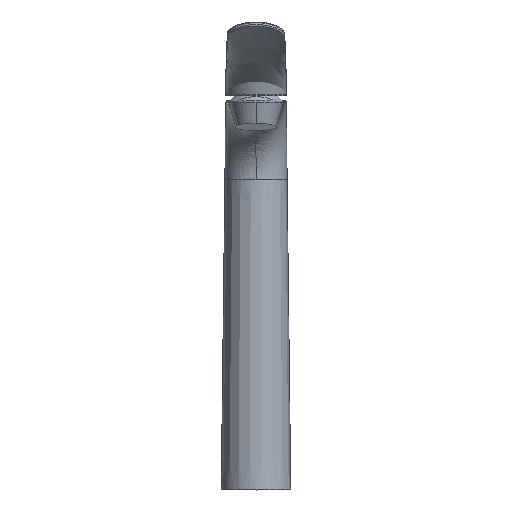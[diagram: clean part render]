
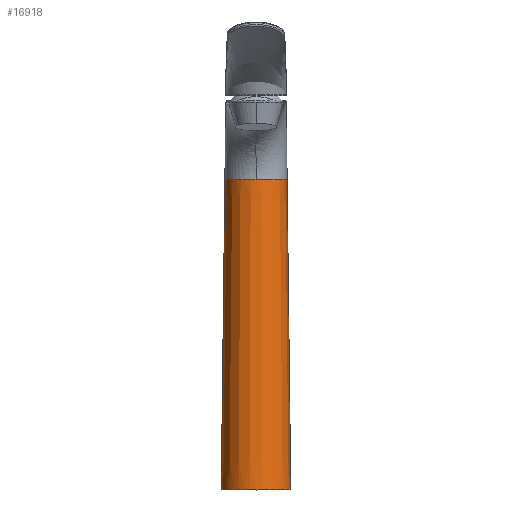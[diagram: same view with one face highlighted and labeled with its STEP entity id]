
A CAD part, top view. The second image highlights one B-rep face of the part: STEP entity #16918.
In plain terms, the highlighted conical face has half-angle 0.671 degrees and reference radius 22.999 mm.
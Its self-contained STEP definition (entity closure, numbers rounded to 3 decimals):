
#66 = B_SPLINE_CURVE_WITH_KNOTS ( 'NONE', 3,
 ( #7645, #13146, #8919, #13057, #6294, #11800, #11891, #17386, #16029, #2600, #13418, #16120, #2413, #17477, #975, #6476, #16307, #12163 ),
 .UNSPECIFIED., .F., .F.,
 ( 4, 2, 2, 2, 2, 2, 2, 2, 4 ),
 ( 0., 0.125, 0.25, 0.375, 0.5, 0.625, 0.75, 0.875, 1. ),
 .UNSPECIFIED. ) ;
#84 = CARTESIAN_POINT ( 'NONE',  ( 20.197, 239.232, 0.231 ) ) ;
#131 = CARTESIAN_POINT ( 'NONE',  ( -19.999, 256.199, 0.232 ) ) ;
#378 = CARTESIAN_POINT ( 'NONE',  ( -10.252, 205.296, 17.913 ) ) ;
#442 = VERTEX_POINT ( 'NONE', #131 ) ;
#463 = CARTESIAN_POINT ( 'NONE',  ( -15.43, 205.296, 13.707 ) ) ;
#548 = DIRECTION ( 'NONE',  ( 0., -1., 0. ) ) ;
#696 = EDGE_CURVE ( 'NONE', #7061, #1376, #4210, .T. ) ;
#711 = ORIENTED_EDGE ( 'NONE', *, *, #11432, .T. ) ;
#975 = CARTESIAN_POINT ( 'NONE',  ( 5.302, 205.296, 19.947 ) ) ;
#1191 = VERTEX_POINT ( 'NONE', #11068 ) ;
#1376 = VERTEX_POINT ( 'NONE', #15026 ) ;
#1464 = CARTESIAN_POINT ( 'NONE',  ( -9.064, 205.296, 18.542 ) ) ;
#1470 = CARTESIAN_POINT ( 'NONE',  ( 19.999, 256.2, 0.228 ) ) ;
#1704 = ORIENTED_EDGE ( 'NONE', *, *, #8108, .T. ) ;
#1871 = ORIENTED_EDGE ( 'NONE', *, *, #696, .T. ) ;
#2216 = ORIENTED_EDGE ( 'NONE', *, *, #10196, .T. ) ;
#2305 = CARTESIAN_POINT ( 'NONE',  ( 20., 256.2, 0.076 ) ) ;
#2413 = CARTESIAN_POINT ( 'NONE',  ( 9.065, 205.296, 18.542 ) ) ;
#2477 = AXIS2_PLACEMENT_3D ( 'NONE', #2995, #548, #16964 ) ;
#2600 = CARTESIAN_POINT ( 'NONE',  ( 13.528, 205.296, 15.588 ) ) ;
#2992 = CARTESIAN_POINT ( 'NONE',  ( -16.29, 205.296, 12.673 ) ) ;
#2995 = CARTESIAN_POINT ( 'NONE',  ( 0., 0., 0. ) ) ;
#3167 = CARTESIAN_POINT ( 'NONE',  ( -13.527, 205.296, 15.588 ) ) ;
#3347 = CARTESIAN_POINT ( 'NONE',  ( 0., 0., 0. ) ) ;
#3682 = ORIENTED_EDGE ( 'NONE', *, *, #12636, .T. ) ;
#4073 = ORIENTED_EDGE ( 'NONE', *, *, #12200, .T. ) ;
#4210 = CIRCLE ( 'NONE', #14860, 22.999 ) ;
#4432 = CARTESIAN_POINT ( 'NONE',  ( -5.301, 205.296, 19.947 ) ) ;
#4605 = CARTESIAN_POINT ( 'NONE',  ( 0., 205.296, 20.604 ) ) ;
#4782 = B_SPLINE_CURVE_WITH_KNOTS ( 'NONE', 3,
 ( #10166, #2305, #6369, #14570 ),
 .UNSPECIFIED., .F., .F.,
 ( 4, 4 ),
 ( 0.993, 1. ),
 .UNSPECIFIED. ) ;
#5104 = CARTESIAN_POINT ( 'NONE',  ( -19.999, 256.199, 0.232 ) ) ;
#5428 = VERTEX_POINT ( 'NONE', #1470 ) ;
#5600 = LINE ( 'NONE', #16418, #8542 ) ;
#6294 = CARTESIAN_POINT ( 'NONE',  ( 19.482, 205.296, 6.814 ) ) ;
#6317 = LINE ( 'NONE', #13263, #8259 ) ;
#6369 = CARTESIAN_POINT ( 'NONE',  ( 20., 256.2, 0.152 ) ) ;
#6416 = DIRECTION ( 'NONE',  ( 0., 1., 0. ) ) ;
#6476 = CARTESIAN_POINT ( 'NONE',  ( 2.676, 205.296, 20.465 ) ) ;
#7050 = DIRECTION ( 'NONE',  ( 0.012, -1., 0. ) ) ;
#7060 = CARTESIAN_POINT ( 'NONE',  ( -20.433, 205.296, 2.913 ) ) ;
#7061 = VERTEX_POINT ( 'NONE', #12394 ) ;
#7542 = CARTESIAN_POINT ( 'NONE',  ( 19.999, 256.2, 0. ) ) ;
#7645 = CARTESIAN_POINT ( 'NONE',  ( 20.599, 205.296, 0.237 ) ) ;
#7877 = EDGE_CURVE ( 'NONE', #5428, #11448, #12334, .T. ) ;
#7992 = CARTESIAN_POINT ( 'NONE',  ( -20., 256.199, 0. ) ) ;
#8017 = B_SPLINE_CURVE_WITH_KNOTS ( 'NONE', 3,
 ( #5104, #14837, #16376, #7992 ),
 .UNSPECIFIED., .F., .F.,
 ( 4, 4 ),
 ( 0., 0.059 ),
 .UNSPECIFIED. ) ;
#8108 = EDGE_CURVE ( 'NONE', #1191, #442, #14488, .T. ) ;
#8259 = VECTOR ( 'NONE', #15959, 1000. ) ;
#8321 = CARTESIAN_POINT ( 'NONE',  ( -6.589, 205.296, 19.559 ) ) ;
#8542 = VECTOR ( 'NONE', #7050, 1000. ) ;
#8587 = CARTESIAN_POINT ( 'NONE',  ( -20.599, 205.296, 0.239 ) ) ;
#8866 = EDGE_LOOP ( 'NONE', ( #4073, #3682, #1871, #14082, #711, #9827, #2216, #17105, #1704 ) ) ;
#8919 = CARTESIAN_POINT ( 'NONE',  ( 20.433, 205.296, 2.911 ) ) ;
#9661 = CARTESIAN_POINT ( 'NONE',  ( -20., 256.199, 0. ) ) ;
#9763 = VERTEX_POINT ( 'NONE', #9661 ) ;
#9827 = ORIENTED_EDGE ( 'NONE', *, *, #7877, .T. ) ;
#9839 = CARTESIAN_POINT ( 'NONE',  ( 0., 205.296, 20.604 ) ) ;
#10028 = CARTESIAN_POINT ( 'NONE',  ( -1.338, 205.296, 20.596 ) ) ;
#10112 = CARTESIAN_POINT ( 'NONE',  ( -19.482, 205.296, 6.815 ) ) ;
#10166 = CARTESIAN_POINT ( 'NONE',  ( 19.999, 256.2, 0. ) ) ;
#10196 = EDGE_CURVE ( 'NONE', #11448, #12983, #66, .T. ) ;
#10909 = CARTESIAN_POINT ( 'NONE',  ( 19.999, 256.2, 0.228 ) ) ;
#11068 = CARTESIAN_POINT ( 'NONE',  ( -20.599, 205.296, 0.239 ) ) ;
#11210 = CARTESIAN_POINT ( 'NONE',  ( -17.793, 205.296, 10.459 ) ) ;
#11365 = VERTEX_POINT ( 'NONE', #7542 ) ;
#11427 = CONICAL_SURFACE ( 'NONE', #2477, 22.999, 0.012 ) ;
#11432 = EDGE_CURVE ( 'NONE', #11365, #5428, #4782, .T. ) ;
#11448 = VERTEX_POINT ( 'NONE', #15660 ) ;
#11800 = CARTESIAN_POINT ( 'NONE',  ( 18.437, 205.296, 9.277 ) ) ;
#11891 = CARTESIAN_POINT ( 'NONE',  ( 17.794, 205.296, 10.458 ) ) ;
#12135 = CARTESIAN_POINT ( 'NONE',  ( -20.197, 239.232, 0.234 ) ) ;
#12163 = CARTESIAN_POINT ( 'NONE',  ( 0., 205.296, 20.604 ) ) ;
#12200 = EDGE_CURVE ( 'NONE', #442, #9763, #8017, .T. ) ;
#12334 = B_SPLINE_CURVE_WITH_KNOTS ( 'NONE', 3,
 ( #10909, #84, #13606, #14770 ),
 .UNSPECIFIED., .F., .F.,
 ( 4, 4 ),
 ( 0., 1. ),
 .UNSPECIFIED. ) ;
#12394 = CARTESIAN_POINT ( 'NONE',  ( -22.999, 0., 0. ) ) ;
#12636 = EDGE_CURVE ( 'NONE', #9763, #7061, #6317, .T. ) ;
#12738 = CARTESIAN_POINT ( 'NONE',  ( -19.884, 205.296, 5.532 ) ) ;
#12759 = EDGE_CURVE ( 'NONE', #11365, #1376, #5600, .T. ) ;
#12822 = CARTESIAN_POINT ( 'NONE',  ( -18.436, 205.296, 9.279 ) ) ;
#12983 = VERTEX_POINT ( 'NONE', #9839 ) ;
#13057 = CARTESIAN_POINT ( 'NONE',  ( 19.884, 205.296, 5.531 ) ) ;
#13146 = CARTESIAN_POINT ( 'NONE',  ( 20.579, 205.296, 1.575 ) ) ;
#13263 = CARTESIAN_POINT ( 'NONE',  ( -22.999, 0., 0. ) ) ;
#13418 = CARTESIAN_POINT ( 'NONE',  ( 12.484, 205.296, 16.435 ) ) ;
#13606 = CARTESIAN_POINT ( 'NONE',  ( 20.396, 222.264, 0.234 ) ) ;
#14082 = ORIENTED_EDGE ( 'NONE', *, *, #12759, .F. ) ;
#14166 = CARTESIAN_POINT ( 'NONE',  ( -20.579, 205.296, 1.577 ) ) ;
#14252 = FACE_OUTER_BOUND ( 'NONE', #8866, .T. ) ;
#14488 = B_SPLINE_CURVE_WITH_KNOTS ( 'NONE', 3,
 ( #16280, #17720, #12135, #16461 ),
 .UNSPECIFIED., .F., .F.,
 ( 4, 4 ),
 ( 0., 1. ),
 .UNSPECIFIED. ) ;
#14570 = CARTESIAN_POINT ( 'NONE',  ( 19.999, 256.2, 0.228 ) ) ;
#14770 = CARTESIAN_POINT ( 'NONE',  ( 20.599, 205.296, 0.237 ) ) ;
#14837 = CARTESIAN_POINT ( 'NONE',  ( -20., 256.199, 0.155 ) ) ;
#14860 = AXIS2_PLACEMENT_3D ( 'NONE', #3347, #6416, #17416 ) ;
#15026 = CARTESIAN_POINT ( 'NONE',  ( 22.999, 0., 0. ) ) ;
#15519 = CARTESIAN_POINT ( 'NONE',  ( -12.484, 205.296, 16.436 ) ) ;
#15614 = B_SPLINE_CURVE_WITH_KNOTS ( 'NONE', 3,
 ( #4605, #10028, #16789, #4432, #8321, #1464, #378, #15519, #3167, #463, #2992, #11210, #12822, #10112, #12738, #7060, #14166, #8587 ),
 .UNSPECIFIED., .F., .F.,
 ( 4, 2, 2, 2, 2, 2, 2, 2, 4 ),
 ( 0., 0.125, 0.25, 0.375, 0.5, 0.625, 0.75, 0.875, 1. ),
 .UNSPECIFIED. ) ;
#15660 = CARTESIAN_POINT ( 'NONE',  ( 20.599, 205.296, 0.237 ) ) ;
#15705 = EDGE_CURVE ( 'NONE', #12983, #1191, #15614, .T. ) ;
#15959 = DIRECTION ( 'NONE',  ( -0.012, -1., 0. ) ) ;
#16029 = CARTESIAN_POINT ( 'NONE',  ( 15.431, 205.296, 13.706 ) ) ;
#16120 = CARTESIAN_POINT ( 'NONE',  ( 10.253, 205.296, 17.913 ) ) ;
#16280 = CARTESIAN_POINT ( 'NONE',  ( -20.599, 205.296, 0.239 ) ) ;
#16307 = CARTESIAN_POINT ( 'NONE',  ( 1.338, 205.296, 20.596 ) ) ;
#16376 = CARTESIAN_POINT ( 'NONE',  ( -20., 256.199, 0.077 ) ) ;
#16418 = CARTESIAN_POINT ( 'NONE',  ( 22.999, 0., 0. ) ) ;
#16461 = CARTESIAN_POINT ( 'NONE',  ( -19.999, 256.199, 0.232 ) ) ;
#16789 = CARTESIAN_POINT ( 'NONE',  ( -2.676, 205.296, 20.465 ) ) ;
#16918 = ADVANCED_FACE ( 'NONE', ( #14252 ), #11427, .T. ) ;
#16964 = DIRECTION ( 'NONE',  ( 1., 0., 0. ) ) ;
#17105 = ORIENTED_EDGE ( 'NONE', *, *, #15705, .T. ) ;
#17386 = CARTESIAN_POINT ( 'NONE',  ( 16.291, 205.296, 12.673 ) ) ;
#17416 = DIRECTION ( 'NONE',  ( 0., 0., 1. ) ) ;
#17477 = CARTESIAN_POINT ( 'NONE',  ( 6.589, 205.296, 19.559 ) ) ;
#17720 = CARTESIAN_POINT ( 'NONE',  ( -20.396, 222.264, 0.236 ) ) ;
